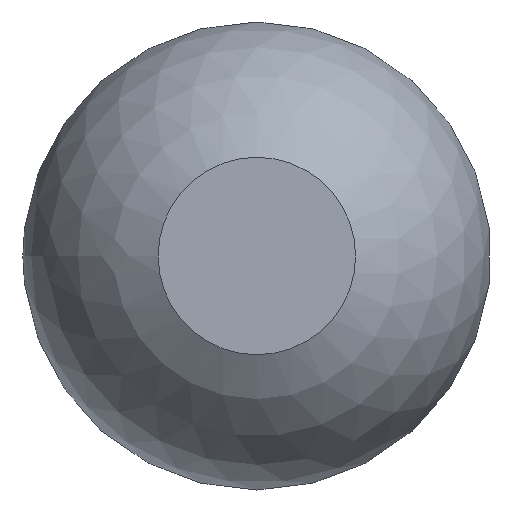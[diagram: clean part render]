
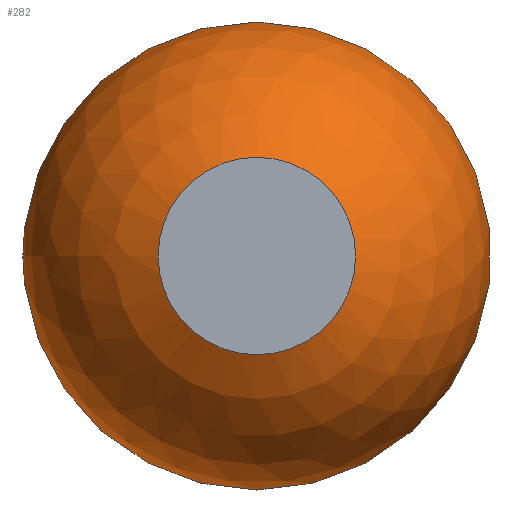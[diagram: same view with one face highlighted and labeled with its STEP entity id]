
A CAD part, left-side view. The second image highlights one B-rep face of the part: STEP entity #282.
In plain terms, the highlighted spherical face has radius 7.5 mm.
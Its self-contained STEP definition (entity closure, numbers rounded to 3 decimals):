
#282=ADVANCED_FACE('',(#476,#478),#480,.T.);
#476=FACE_OUTER_BOUND('',#477,.T.);
#477=EDGE_LOOP('',(#691));
#478=FACE_OUTER_BOUND('',#479,.T.);
#479=EDGE_LOOP('',(#692));
#480=SPHERICAL_SURFACE('',#481,7.5);
#481=AXIS2_PLACEMENT_3D('',#482,#483,#484);
#482=CARTESIAN_POINT('',(0.,0.,0.));
#483=DIRECTION('',(1.,0.,0.));
#484=DIRECTION('',(0.,1.,0.));
#691=ORIENTED_EDGE('',*,*,#793,.F.);
#692=ORIENTED_EDGE('',*,*,#794,.T.);
#793=EDGE_CURVE('',#891,#891,#892,.T.);
#794=EDGE_CURVE('',#893,#893,#894,.T.);
#891=VERTEX_POINT('',#1403);
#892=CIRCLE('',#1404,6.);
#893=VERTEX_POINT('',#1408);
#894=CIRCLE('',#1409,3.164);
#1403=CARTESIAN_POINT('',(4.5,6.,0.));
#1404=AXIS2_PLACEMENT_3D('',#1405,#1406,#1407);
#1405=CARTESIAN_POINT('',(4.5,0.,0.));
#1406=DIRECTION('',(1.,0.,0.));
#1407=DIRECTION('',(0.,1.,0.));
#1408=CARTESIAN_POINT('',(-6.8,3.164,0.));
#1409=AXIS2_PLACEMENT_3D('',#1410,#1411,#1412);
#1410=CARTESIAN_POINT('',(-6.8,0.,0.));
#1411=DIRECTION('',(1.,0.,0.));
#1412=DIRECTION('',(0.,1.,0.));
